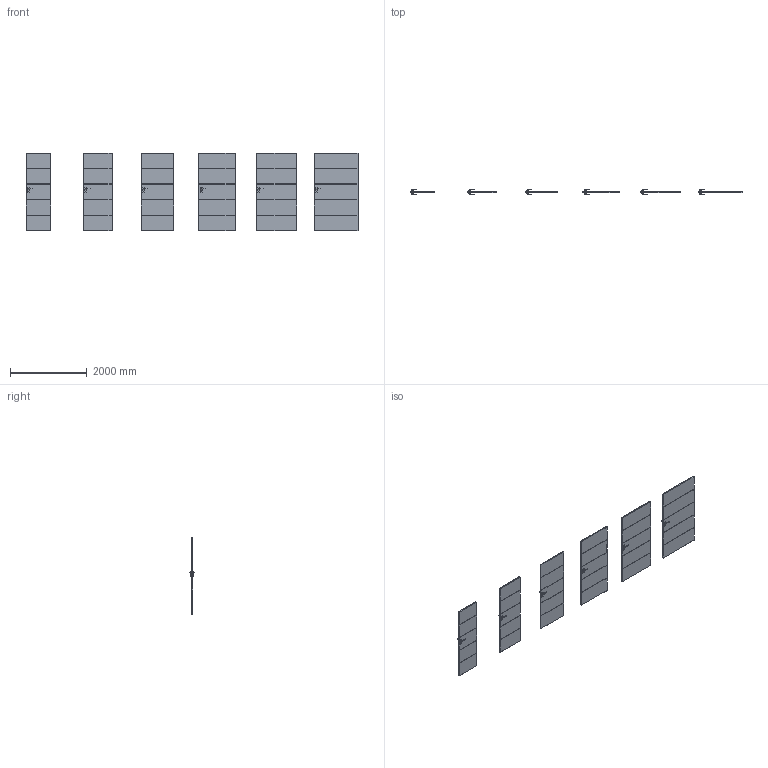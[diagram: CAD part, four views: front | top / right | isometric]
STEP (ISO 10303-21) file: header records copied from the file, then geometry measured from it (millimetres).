
FILE_DESCRIPTION(/* description */ (''),/* implementation_level */ '2;1');
FILE_NAME(/* name */ '049692_B_2-Skrzydło VECTOR E_ polska norma _PN__ odwrotna przylga..stp',/* time_stamp */ '2024-02-20T11:15:33+01:00',/* author */ (''),/* organization */ (''),/* preprocessor_version */ 'ST-DEVELOPER v16',/* originating_system */ 'SIEMENS PLM Software NX 11.0',/* authorisation */ '');
FILE_SCHEMA (('AUTOMOTIVE_DESIGN { 1 0 10303 214 3 1 1 1 }'));
Length unit declared in the file: millimetre
Products named in the file (1): bkni63CC6E915g8d
Bounding box: 8639 x 153.27 x 2027 mm (x, y, z)
Volume: 421789678.1 mm3; surface area: 23337215.9 mm2
Topology: 30 solids, 30 shells, 1464 faces, 3684 edges, 2160 vertices
Faces by surface type: plane 648, cylinder 456, bspline 192, sphere 168
Entity records: 49156 total; most frequent: CARTESIAN_POINT 15565, ORIENTED_EDGE 7032, DIRECTION 6806, EDGE_CURVE 3516, AXIS2_PLACEMENT_3D 2377, VERTEX_POINT 2160, LINE 2052, VECTOR 2052
